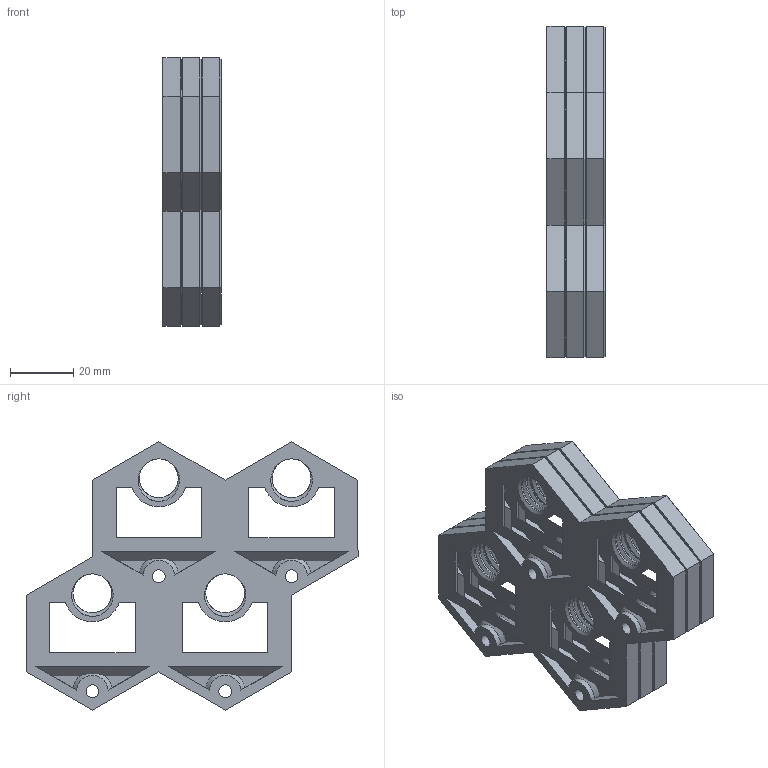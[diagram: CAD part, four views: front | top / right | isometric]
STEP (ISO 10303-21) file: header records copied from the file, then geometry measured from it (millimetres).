
FILE_DESCRIPTION(/* description */ ('','CAx-IF Rec.Pracs.---Representation and Presentation of Product Manufacturing Information (PMI)---4.0---2014-10-13'),/* implementation_level */ '2;1');
FILE_NAME(/* name */ 'GOEWS 2x2 Tile Stack with 0.2 Gaps.step',/* time_stamp */ '2024-11-29T15:34:10-05:00',/* author */ (''),/* organization */ (''),/* preprocessor_version */ 'ST-DEVELOPER v20',/* originating_system */ 'Autodesk Translation Framework v13.20.0.188',/* authorisation */ '');
FILE_SCHEMA (('AP242_MANAGED_MODEL_BASED_3D_ENGINEERING_MIM_LF { 1 0 10303 442 1 1 4 }'));
Length unit declared in the file: millimetre
Products named in the file (1): GOEWS Parametric Tile Stack with Gaps
Bounding box: 18.4 x 105 x 84.87 mm (x, y, z)
Volume: 54993.7 mm3; surface area: 44385 mm2
Topology: 3 solids, 3 shells, 657 faces, 1779 edges, 1140 vertices
Faces by surface type: plane 453, cylinder 144, cone 36, bspline 24
Full cylindrical faces by diameter (mm): 4 x12, 8 x12, 12.322 x24, 14.55 x24
Entity records: 34424 total; most frequent: CARTESIAN_POINT 18337, ORIENTED_EDGE 3558, DIRECTION 2927, EDGE_CURVE 1779, LINE 1275, VECTOR 1275, VERTEX_POINT 1140, AXIS2_PLACEMENT_3D 826
